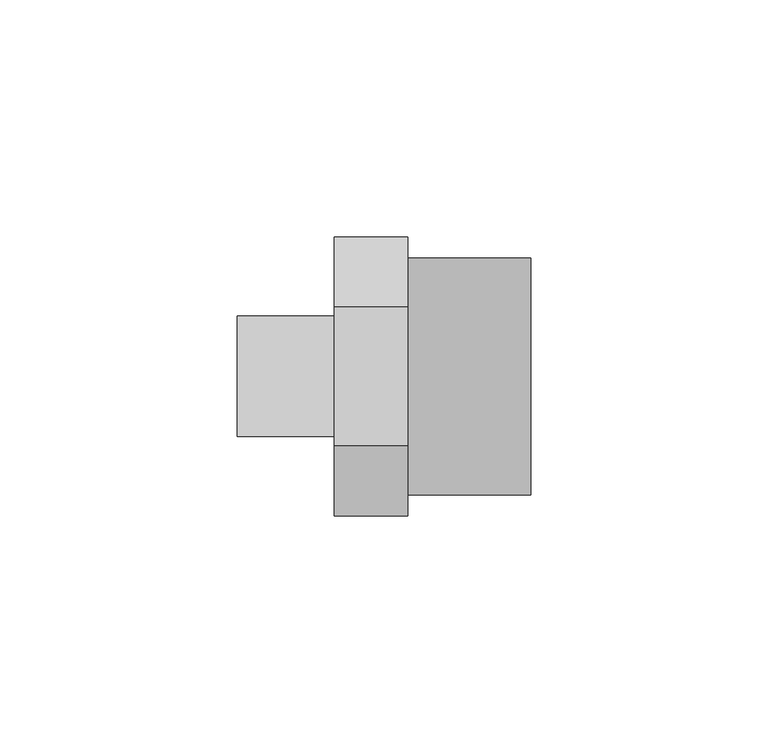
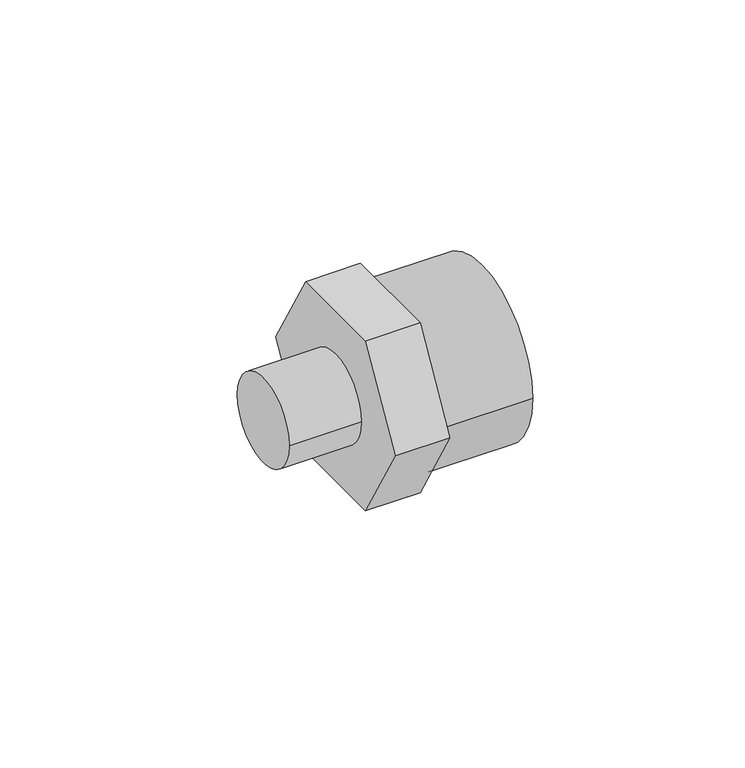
"""IFC4 building model written with IfcOpenShell, lengths in millimetres: pipe fitting geometry, 01101081 : Manguitos multiplos H/M/M."""

from ifc_helpers import new_model, si_unit, point, frame, origin, origin_2d, place, context, project, spatial, polyline, circle_curve, trimmed, segment, composite_curve, outline, extrude, source, transform, mapped, element, save


def pipe_fitting_3f8c9346(model_context):
    return source(origin(), model_context, "Body", "SweptSolid", [
        extrude(outline(composite_curve([segment(trimmed(circle_curve(origin_2d(), 12.7), [point((12.7, 0.0))], [point((-12.7, 0.0))], False, "CARTESIAN"), True, "CONTINUOUS"), segment(trimmed(circle_curve(origin_2d(), 12.7), [point((-12.7, 0.0))], [point((12.7, 0.0))], False, "CARTESIAN"), True, "CONTINUOUS")], self_intersect=False)), frame((0.0, 0.0, 0.0), z_axis=(1.0, 0.0, 0.0), x_axis=(0.0, 1.0, 0.0)), (0.0, 0.0, 1.0), 20.5),
        extrude(outline(polyline([(-14.7224319, 25.5), (14.7224319, 25.5), (29.4448637, 0.0), (14.7224319, -25.5), (-14.7224319, -25.5), (-29.4448637, 0.0), (-14.7224319, 25.5)])), frame((20.5, 0.0, 0.0), z_axis=(1.0, 0.0, 0.0), x_axis=(0.0, 1.0, 0.0)), (0.0, 0.0, 1.0), 15.5),
        extrude(outline(composite_curve([segment(trimmed(circle_curve(origin_2d(), 25.0), [point((-25.0, 0.0))], [point((25.0, 0.0))], False, "CARTESIAN"), True, "CONTINUOUS"), segment(trimmed(circle_curve(origin_2d(), 25.0), [point((25.0, 0.0))], [point((-25.0, 0.0))], False, "CARTESIAN"), True, "CONTINUOUS")], self_intersect=False)), frame((36.0, 0.0, 0.0), z_axis=(1.0, 0.0, 0.0), x_axis=(0.0, 1.0, 0.0)), (0.0, 0.0, 1.0), 26.0),
    ])


if __name__ == "__main__":
    model = new_model("IFC4")
    model_context = context("Model", 3, world=origin())
    ifc_project = project(units=[si_unit("LENGTHUNIT", "METRE", prefix="MILLI")], contexts=[model_context])
    site = spatial("IfcSite", under=ifc_project)
    building = spatial("IfcBuilding", under=site)
    placement = place(None, origin())
    pipe_fitting_shape = pipe_fitting_3f8c9346(model_context)
    element("IfcPipeFitting", 1, ObjectType="01101081 : Manguitos multiplos H/M/M", at=placement, inside=building, context=model_context, shape_type="MappedRepresentation", body=[
        mapped(pipe_fitting_shape, transform((0.0, 0.0, 0.0), x_axis=(1.0, 0.0, 0.0), y_axis=(0.0, 1.0, 0.0), z_axis=(0.0, 0.0, 1.0))),
    ])
    save(model, "model.ifc")
